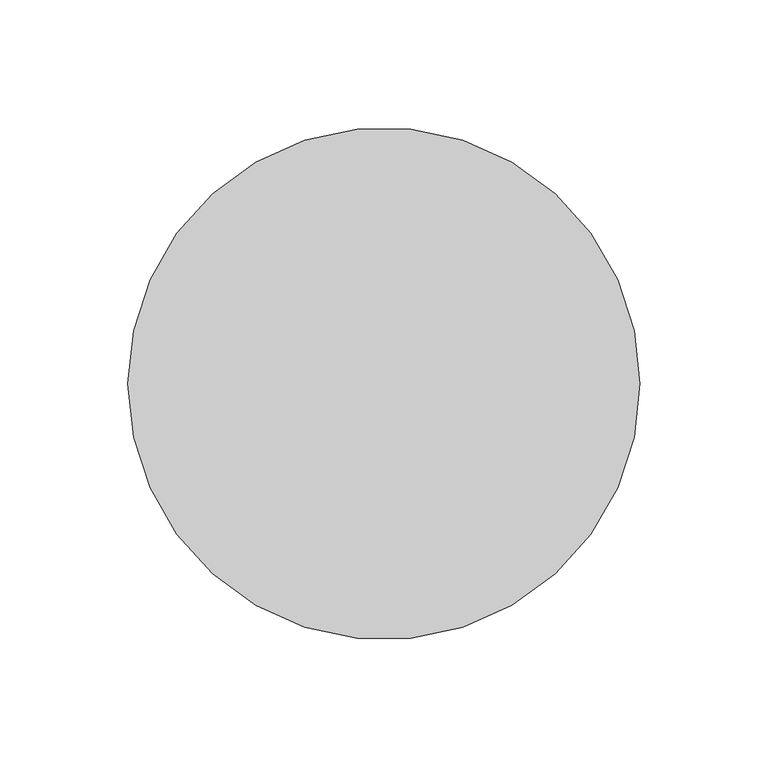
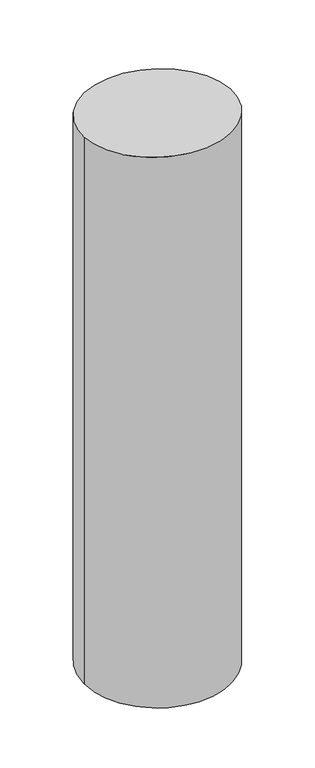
"""IFC4 building model written with IfcOpenShell, lengths in millimetres: member geometry, 矩形竖梃 : 圆瓦."""

from ifc_helpers import new_model, si_unit, frame, origin, origin_with_axes, place, context, project, spatial, circle_curve, ellipse_curve, source, transform, mapped, element, save
from ifc_brep_helpers import plane_surface, cylinder_surface, advanced_brep


def member_985b398b(model_context):
    return source(origin(), model_context, "Body", "AdvancedBrep", [
        advanced_brep(
        [(100.0, 0.0, -790.1124317), (-100.0, 0.0, -790.1124317), (-100.0, 0.0, 0.0), (100.0, 0.0, 0.0)],
        [
            (0, 1, circle_curve(frame((0.0, 0.0, -790.1124317), z_axis=(0.0, 0.0, -1.0), x_axis=(1.0, 0.0, 0.0)), 100.0)),
            (1, 0, circle_curve(frame((0.0, 0.0, -790.1124317), z_axis=(0.0, 0.0, -1.0), x_axis=(1.0, 0.0, 0.0)), 100.0)),
            (2, 3, ellipse_curve(frame((0.0, 0.0, 0.0), z_axis=(0.0, -0.06767279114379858, -0.9977075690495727), x_axis=(0.0, -0.9977075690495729, 0.0676727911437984)), 100.2297698, 100.0)),
            (3, 0),
            (1, 2),
            (3, 2, ellipse_curve(frame((0.0, 0.0, 0.0), z_axis=(0.0, -0.06767279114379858, -0.9977075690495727), x_axis=(0.0, -0.9977075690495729, 0.0676727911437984)), 100.2297698, 100.0)),
        ],
        [
            plane_surface(frame((0.0, -100.0, -790.1124317), z_axis=(0.0, 0.0, -1.0), x_axis=(-1.0, 0.0, 0.0))),
            cylinder_surface(origin_with_axes(), 100.0),
            plane_surface(frame((-304.8, 0.0, 0.0), z_axis=(0.0, 0.06767279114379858, 0.9977075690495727), x_axis=(0.0, 0.9977075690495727, -0.06767279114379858))),
        ],
        [
            (0, [[1, 2]]),
            (1, [[3, 4, -2, 5]]),
            (1, [[6, -5, -1, -4]]),
            (2, [[-3, -6]]),
        ],
    ),
    ])


if __name__ == "__main__":
    model = new_model("IFC4")
    model_context = context("Model", 3, world=origin())
    ifc_project = project(units=[si_unit("LENGTHUNIT", "METRE", prefix="MILLI")], contexts=[model_context])
    site = spatial("IfcSite", under=ifc_project)
    building = spatial("IfcBuilding", under=site)
    placement = place(None, origin())
    member_shape = member_985b398b(model_context)
    element("IfcMember", 1, ObjectType="矩形竖梃 : 圆瓦", at=placement, inside=building, context=model_context, shape_type="MappedRepresentation", body=[
        mapped(member_shape, transform((0.0, 0.0, 0.0), x_axis=(1.0, 0.0, 0.0), y_axis=(0.0, 1.0, 0.0), z_axis=(0.0, 0.0, 1.0))),
    ])
    save(model, "model.ifc")
